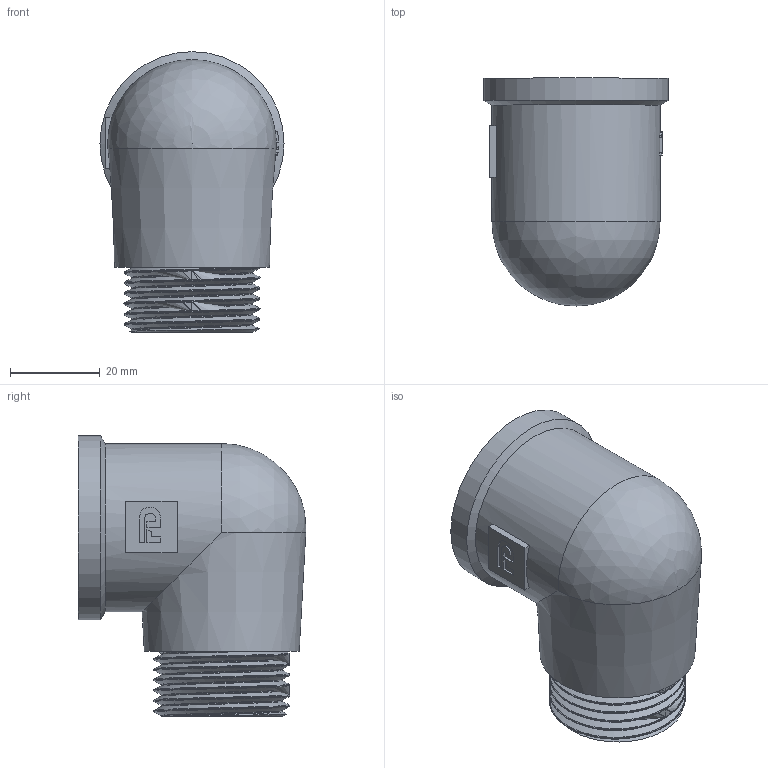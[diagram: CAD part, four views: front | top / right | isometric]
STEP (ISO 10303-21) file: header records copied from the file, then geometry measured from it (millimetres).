
FILE_DESCRIPTION(/* description */ (''),/* implementation_level */ '2;1');
FILE_NAME(/* name */ 'C:\Users\Doom\Desktop\Фадотех\Резьба\U13C 18.03.2020\U13C 18.03.2020.stp',/* time_stamp */ '2022-01-22T00:06:25+02:00',/* author */ ('Doom'),/* organization */ (''),/* preprocessor_version */ 'ST-DEVELOPER v18',/* originating_system */ 'Autodesk Inventor 2020',/* authorisation */ '');
FILE_SCHEMA (('AUTOMOTIVE_DESIGN { 1 0 10303 214 3 1 1 }'));
Length unit declared in the file: millimetre
Products named in the file (1): U11C 18.03.2020
Bounding box: 41 x 50.75 x 62.5 mm (x, y, z)
Volume: 28841.4 mm3; surface area: 23904.2 mm2
Topology: 3 solids, 3 shells, 100 faces, 266 edges, 179 vertices
Faces by surface type: plane 48, cylinder 28, bspline 17, cone 4, sphere 3
Full cylindrical faces by diameter (mm): 25 x1, 26.866 x2, 29.816 x5, 30.29 x7, 30.5 x1, 33.24 x2, 34 x1, 37.5 x1, 41 x1
Entity records: 10386 total; most frequent: CARTESIAN_POINT 7957, ORIENTED_EDGE 530, DIRECTION 435, EDGE_CURVE 265, VERTEX_POINT 179, AXIS2_PLACEMENT_3D 162, EDGE_LOOP 114, LINE 111
